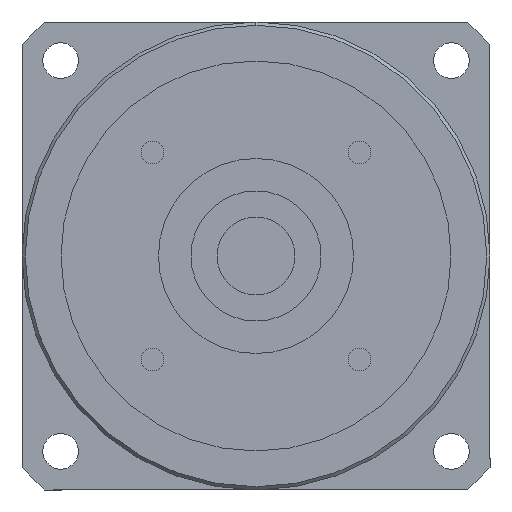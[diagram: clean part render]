
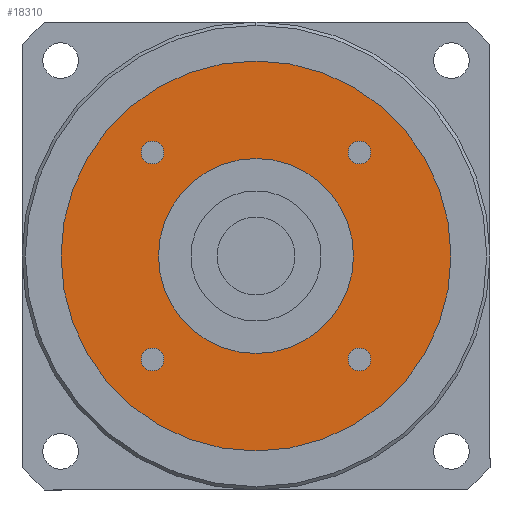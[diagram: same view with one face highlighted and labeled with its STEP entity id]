
A CAD part, left-side view. The second image highlights one B-rep face of the part: STEP entity #18310.
In plain terms, the highlighted planar face has unit normal (-1, 0, 0) as drawn and (0, 0, -1) by its records, which use the part's own axes.
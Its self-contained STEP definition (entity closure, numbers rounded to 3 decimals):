
#15130=CARTESIAN_POINT('',(-14.16,-15.91,-95.));
#15140=VERTEX_POINT('',#15130);
#15320=CARTESIAN_POINT('',(-17.66,-15.91,-95.));
#15330=VERTEX_POINT('',#15320);
#15360=CARTESIAN_POINT('',(-15.91,-15.91,-95.));
#15370=DIRECTION('',(0.,0.,-1.));
#15380=DIRECTION('',(0.,-1.,0.));
#15390=AXIS2_PLACEMENT_3D('',#15360,#15370,#15380);
#15400=CIRCLE('',#15390,1.75);
#15410=CARTESIAN_POINT('',(-15.91,-17.66,-95.));
#15420=VERTEX_POINT('',#15410);
#15430=EDGE_CURVE('',#15420,#15330,#15400,.T.);
#15450=EDGE_CURVE('',#15140,#15420,#15400,.T.);
#15550=CARTESIAN_POINT('',(0.,0.,
-95.));
#15560=DIRECTION('',(0.,0.,1.));
#15570=DIRECTION('',(0.,-1.,0.));
#15580=AXIS2_PLACEMENT_3D('',#15550,#15560,#15570);
#15590=CIRCLE('',#15580,15.);
#15600=CARTESIAN_POINT('',(0.,-15.,-95.));
#15610=VERTEX_POINT('',#15600);
#15620=CARTESIAN_POINT('',(15.,0.,-95.));
#15630=VERTEX_POINT('',#15620);
#15640=EDGE_CURVE('',#15610,#15630,#15590,.T.);
#15870=CARTESIAN_POINT('',(-15.,0.,-95.));
#15880=VERTEX_POINT('',#15870);
#15910=EDGE_CURVE('',#15880,#15610,#15590,.T.);
#17240=CARTESIAN_POINT('',(30.,0.,-95.));
#17250=VERTEX_POINT('',#17240);
#17280=CARTESIAN_POINT('',(0.,0.,
-95.));
#17290=DIRECTION('',(0.,0.,1.));
#17300=DIRECTION('',(0.,-1.,0.));
#17310=AXIS2_PLACEMENT_3D('',#17280,#17290,#17300);
#17320=CIRCLE('',#17310,30.);
#17330=CARTESIAN_POINT('',(0.,-30.,-95.));
#17340=VERTEX_POINT('',#17330);
#17350=EDGE_CURVE('',#17340,#17250,#17320,.T.);
#17370=CARTESIAN_POINT('',(-30.,0.,-95.));
#17380=VERTEX_POINT('',#17370);
#17390=EDGE_CURVE('',#17380,#17340,#17320,.T.);
#17510=CARTESIAN_POINT('',(0.,0.,
-95.));
#17520=DIRECTION('',(0.,0.,1.));
#17530=DIRECTION('',(-1.,0.,0.));
#17540=AXIS2_PLACEMENT_3D('',#17510,#17520,#17530);
#17550=PLANE('',#17540);
#17560=CARTESIAN_POINT('',(15.91,-15.91,-95.));
#17570=DIRECTION('',(0.,0.,-1.));
#17580=DIRECTION('',(1.,0.,0.));
#17590=AXIS2_PLACEMENT_3D('',#17560,#17570,#17580);
#17600=CIRCLE('',#17590,1.75);
#17610=CARTESIAN_POINT('',(17.66,-15.91,-95.));
#17620=VERTEX_POINT('',#17610);
#17630=CARTESIAN_POINT('',(15.91,-17.66,-95.));
#17640=VERTEX_POINT('',#17630);
#17650=EDGE_CURVE('',#17620,#17640,#17600,.T.);
#17660=ORIENTED_EDGE('',*,*,#17650,.F.);
#17670=CARTESIAN_POINT('',(15.91,-14.16,-95.));
#17680=VERTEX_POINT('',#17670);
#17690=EDGE_CURVE('',#17640,#17680,#17600,.T.);
#17700=ORIENTED_EDGE('',*,*,#17690,.F.);
#17710=EDGE_CURVE('',#17680,#17620,#17600,.T.);
#17720=ORIENTED_EDGE('',*,*,#17710,.F.);
#17730=EDGE_LOOP('',(#17720,#17700,#17660));
#17740=FACE_BOUND('',#17730,.T.);
#17750=CARTESIAN_POINT('',(15.91,15.91,-95.));
#17760=DIRECTION('',(0.,0.,-1.));
#17770=DIRECTION('',(0.,1.,0.));
#17780=AXIS2_PLACEMENT_3D('',#17750,#17760,#17770);
#17790=CIRCLE('',#17780,1.75);
#17800=CARTESIAN_POINT('',(15.91,17.66,-95.));
#17810=VERTEX_POINT('',#17800);
#17820=CARTESIAN_POINT('',(17.66,15.91,-95.));
#17830=VERTEX_POINT('',#17820);
#17840=EDGE_CURVE('',#17810,#17830,#17790,.T.);
#17850=ORIENTED_EDGE('',*,*,#17840,.F.);
#17860=CARTESIAN_POINT('',(14.16,15.91,-95.));
#17870=VERTEX_POINT('',#17860);
#17880=EDGE_CURVE('',#17830,#17870,#17790,.T.);
#17890=ORIENTED_EDGE('',*,*,#17880,.F.);
#17900=EDGE_CURVE('',#17870,#17810,#17790,.T.);
#17910=ORIENTED_EDGE('',*,*,#17900,.F.);
#17920=EDGE_LOOP('',(#17910,#17890,#17850));
#17930=FACE_BOUND('',#17920,.T.);
#17940=CARTESIAN_POINT('',(-15.91,15.91,-95.));
#17950=DIRECTION('',(0.,0.,-1.));
#17960=DIRECTION('',(-1.,0.,0.));
#17970=AXIS2_PLACEMENT_3D('',#17940,#17950,#17960);
#17980=CIRCLE('',#17970,1.75);
#17990=CARTESIAN_POINT('',(-17.66,15.91,-95.));
#18000=VERTEX_POINT('',#17990);
#18010=CARTESIAN_POINT('',(-15.91,17.66,-95.));
#18020=VERTEX_POINT('',#18010);
#18030=EDGE_CURVE('',#18000,#18020,#17980,.T.);
#18040=ORIENTED_EDGE('',*,*,#18030,.F.);
#18050=CARTESIAN_POINT('',(-15.91,14.16,-95.));
#18060=VERTEX_POINT('',#18050);
#18070=EDGE_CURVE('',#18020,#18060,#17980,.T.);
#18080=ORIENTED_EDGE('',*,*,#18070,.F.);
#18090=EDGE_CURVE('',#18060,#18000,#17980,.T.);
#18100=ORIENTED_EDGE('',*,*,#18090,.F.);
#18110=EDGE_LOOP('',(#18100,#18080,#18040));
#18120=FACE_BOUND('',#18110,.T.);
#18130=ORIENTED_EDGE('',*,*,#15430,.F.);
#18140=EDGE_CURVE('',#15330,#15140,#15400,.T.);
#18150=ORIENTED_EDGE('',*,*,#18140,.F.);
#18160=ORIENTED_EDGE('',*,*,#15450,.F.);
#18170=EDGE_LOOP('',(#18160,#18150,#18130));
#18180=FACE_BOUND('',#18170,.T.);
#18190=ORIENTED_EDGE('',*,*,#17350,.F.);
#18200=EDGE_CURVE('',#17250,#17380,#17320,.T.);
#18210=ORIENTED_EDGE('',*,*,#18200,.F.);
#18220=ORIENTED_EDGE('',*,*,#17390,.F.);
#18230=EDGE_LOOP('',(#18220,#18210,#18190));
#18240=FACE_OUTER_BOUND('',#18230,.T.);
#18250=EDGE_CURVE('',#15630,#15880,#15590,.T.);
#18260=ORIENTED_EDGE('',*,*,#18250,.T.);
#18270=ORIENTED_EDGE('',*,*,#15640,.T.);
#18280=ORIENTED_EDGE('',*,*,#15910,.T.);
#18290=EDGE_LOOP('',(#18280,#18270,#18260));
#18300=FACE_BOUND('',#18290,.T.);
#18310=ADVANCED_FACE('',(#17740,#17930,#18120,#18180,#18240,#18300),
#17550,.F.);
